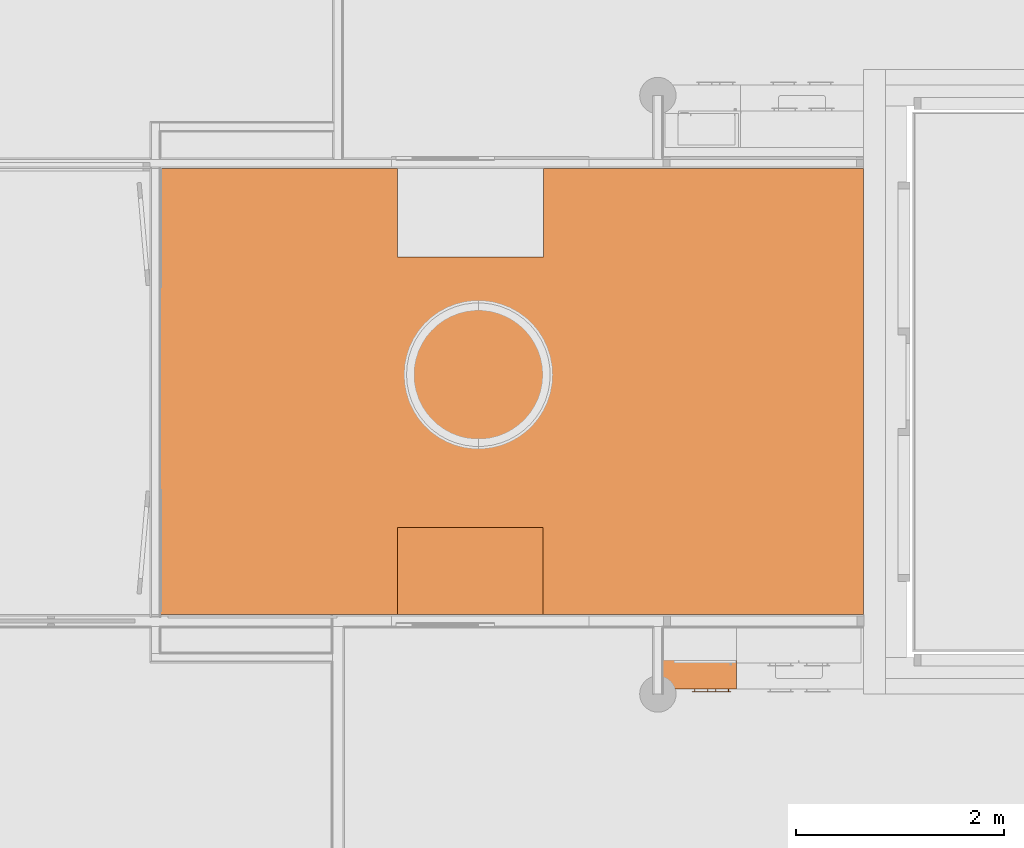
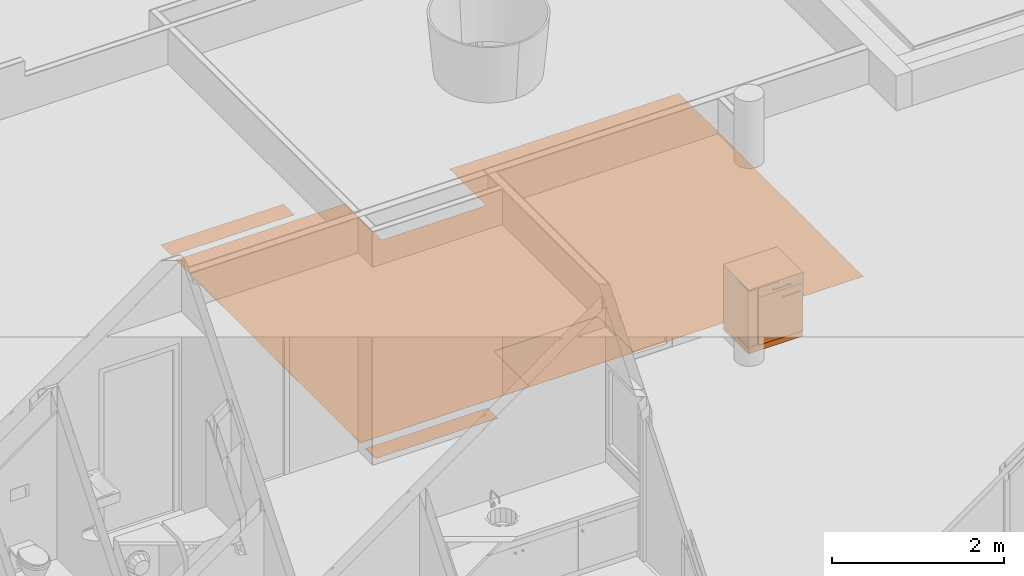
# One storey, part 155 of 167: 3 proxies.
"""IFC2X3 building model written with IfcOpenShell, lengths in millimetres."""

import ifcopenshell
import ifcopenshell.guid

model = None  # the IFC model being written
_history = None  # IfcOwnerHistory: only IFC2X3 demands one
_inside = {}  # id of a spatial element -> (the spatial element, [elements in it])
_under = {}  # id of a project, library or spatial element -> (it, [spatial elements below it])
_declared = {}  # id of a project -> (the project, [libraries it declares])
_typed = {}  # id of a type object -> (the type object, [elements of that type])
_made_of = {}  # id of a material, layer set ... -> (it, [elements and type objects made of it])


def new_model(schema):
    """Start an empty IFC model of exactly this schema.

    Asked for "IFC4X3", IfcOpenShell would pick the latest addendum, in which some entities
    have other attributes; the version numbers below select the first issue.
    IFC2X3 requires an IfcOwnerHistory on every rooted entity: one is made here for all.
    """
    global model, _history
    if schema == "IFC4X3":
        model = ifcopenshell.file(schema_version=(4, 3, 0, 0))
    else:
        model = ifcopenshell.file(schema=schema)
    _inside.clear()
    _under.clear()
    _declared.clear()
    _typed.clear()
    _made_of.clear()
    _history = None
    if model.schema == "IFC2X3":
        org = make("IfcOrganization", Name="unknown")
        user = make(
            "IfcPersonAndOrganization",
            ThePerson=make("IfcPerson", FamilyName="unknown"),
            TheOrganization=org,
        )
        app = make(
            "IfcApplication",
            ApplicationDeveloper=org,
            Version="unknown",
            ApplicationFullName="unknown",
            ApplicationIdentifier="unknown",
        )
        _history = make(
            "IfcOwnerHistory",
            OwningUser=user,
            OwningApplication=app,
            ChangeAction="ADDED",
            CreationDate=0,
        )
    return model


def make(cls, **values):
    """One entity of the class cls with the attributes given. An attribute that is None is left unset."""
    return model.create_entity(
        cls, **{name: value for name, value in values.items() if value is not None}
    )


def entity(cls, *values):
    """Any entity or typed value of the class cls, its attributes in the order of the schema. None: left unset."""
    e = model.create_entity(cls)
    for i, value in enumerate(values):
        if value is not None:
            e[i] = value
    return e


def rooted(cls, **values):
    """An entity with a GlobalId (a new one), such as an element, a storey or a relation."""
    return make(cls, GlobalId=ifcopenshell.guid.new(), OwnerHistory=_history, **values)


def si_unit(unit_type, name, prefix=None):
    """IfcSIUnit, for example si_unit("LENGTHUNIT", "METRE", prefix="MILLI")."""
    return make("IfcSIUnit", UnitType=unit_type, Prefix=prefix, Name=name)


def converted_unit(unit_type, name, factor, base, dimensions=None, offset=None):
    """IfcConversionBasedUnit, such as the inch: factor (a typed value) times the base unit."""
    return make(
        "IfcConversionBasedUnit"
        if offset is None
        else "IfcConversionBasedUnitWithOffset",
        ConversionOffset=offset,
        Dimensions=None
        if dimensions is None
        else entity("IfcDimensionalExponents", *dimensions),
        UnitType=unit_type,
        Name=name,
        ConversionFactor=make(
            "IfcMeasureWithUnit", ValueComponent=factor, UnitComponent=base
        ),
    )


def derived_unit(unit_type, elements):
    """IfcDerivedUnit: a product of units, each with its exponent."""
    return make(
        "IfcDerivedUnit",
        Elements=[
            make("IfcDerivedUnitElement", Unit=unit, Exponent=power)
            for unit, power in elements
        ],
        UnitType=unit_type,
    )


def money_unit(currency):
    """IfcMonetaryUnit."""
    return make("IfcMonetaryUnit", Currency=currency)


def assignment(units):
    """IfcUnitAssignment: the units of a project."""
    return None if units is None else make("IfcUnitAssignment", Units=units)


def point(xyz):
    """IfcCartesianPoint."""
    return None if xyz is None else make("IfcCartesianPoint", Coordinates=xyz)


def direction(xyz):
    """IfcDirection."""
    return None if xyz is None else make("IfcDirection", DirectionRatios=xyz)


def frame(location, z_axis=None, x_axis=None):
    """IfcAxis2Placement3D, a coordinate frame: its origin and axes. An axis left out is left unset."""
    return make(
        "IfcAxis2Placement3D",
        Location=point(location),
        Axis=direction(z_axis),
        RefDirection=direction(x_axis),
    )


def origin_with_axes():
    """The frame at (0, 0, 0) with the z axis (0, 0, 1) and the x axis (1, 0, 0) written out."""
    return frame((0.0, 0.0, 0.0), z_axis=(0.0, 0.0, 1.0), x_axis=(1.0, 0.0, 0.0))


def place(relative_to, where):
    """IfcLocalPlacement: puts the frame where relative to a parent placement (None: the world)."""
    return make(
        "IfcLocalPlacement", PlacementRelTo=relative_to, RelativePlacement=where
    )


def context(
    kind, dimensions, precision=None, world=None, true_north=None, identifier=None
):
    """IfcGeometricRepresentationContext, for example the 3D "Model" context."""
    return make(
        "IfcGeometricRepresentationContext",
        ContextIdentifier=identifier,
        ContextType=kind,
        CoordinateSpaceDimension=dimensions,
        Precision=precision,
        WorldCoordinateSystem=world,
        TrueNorth=true_north,
    )


def subcontext(parent, identifier, kind, view, scale=None):
    """IfcGeometricRepresentationSubContext, for example "Body" below "Model"."""
    return make(
        "IfcGeometricRepresentationSubContext",
        ContextIdentifier=identifier,
        ContextType=kind,
        ParentContext=parent,
        TargetScale=scale,
        TargetView=view,
    )


def project(units=None, contexts=None):
    """IfcProject with its units and contexts."""
    return rooted(
        "IfcProject",
        Name="project",
        RepresentationContexts=contexts,
        UnitsInContext=assignment(units),
    )


def spatial(cls, under=None, at=None, **own):
    """A site, building, storey or space (cls), placed at a placement, below another one or the project."""
    s = rooted(cls, ObjectPlacement=at, **own)
    if under is not None:
        _under.setdefault(under.id(), (under, []))[1].append(s)
    return s


def faces_of(points, faces, orient=None, outer=None):
    """IfcFace entities. A face is a list of loops; a loop is a list of indices into points, from 0.

    orient and outer hold one flag for each loop. By default every Orientation is true, the
    first loop of a face is its IfcFaceOuterBound and the others are IfcFaceBound.
    """
    made = []
    for i, loops in enumerate(faces):
        bounds = []
        for j, loop in enumerate(loops):
            is_outer = j == 0 if outer is None else outer[i][j]
            bounds.append(
                make(
                    "IfcFaceOuterBound" if is_outer else "IfcFaceBound",
                    Bound=make("IfcPolyLoop", Polygon=[points[k] for k in loop]),
                    Orientation=True if orient is None else orient[i][j],
                )
            )
        made.append(make("IfcFace", Bounds=bounds))
    return made


def open_shell(faces, orient=None, outer=None):
    """The faces of one IfcOpenShell. surface_model builds it on its shared points."""
    return ("IfcOpenShell", faces, orient, outer)


def faceted_brep(points, faces, orient=None, outer=None, voids=None):
    """IfcFacetedBrep: a solid bounded by flat faces; with voids (closed shells), ...WithVoids."""
    shared = [point(p) for p in points]
    hull = make("IfcClosedShell", CfsFaces=faces_of(shared, faces, orient, outer))
    if voids is None:
        return make("IfcFacetedBrep", Outer=hull)
    return make(
        "IfcFacetedBrepWithVoids",
        Outer=hull,
        Voids=[
            make(cls, CfsFaces=faces_of(shared, fs, o, b)) for cls, fs, o, b in voids
        ],
    )


def surface_model(cls, points, shells):
    """IfcFaceBasedSurfaceModel or IfcShellBasedSurfaceModel (cls): surfaces that need not close."""
    shared = [point(p) for p in points]
    made = [make(c, CfsFaces=faces_of(shared, fs, o, b)) for c, fs, o, b in shells]
    if cls == "IfcFaceBasedSurfaceModel":
        return make(cls, FbsmFaces=made)
    return make(cls, SbsmBoundary=made)


def shape(context_of_items, identifier, shape_type, items):
    """IfcShapeRepresentation: the items that make up one representation, for example the "Body"."""
    return make(
        "IfcShapeRepresentation",
        ContextOfItems=context_of_items,
        RepresentationIdentifier=identifier,
        RepresentationType=shape_type,
        Items=items,
    )


def material(Name=None, Category=None):
    """IfcMaterial."""
    return make("IfcMaterial", Name=Name, Category=Category)


def made_of(thing, what):
    """Note that an element or type object is made of a material, layer set ...; save() writes the relation."""
    if what is not None:
        _made_of.setdefault(what.id(), (what, []))[1].append(thing)
    return thing


def type_object(cls, material=None, **own):
    """A type object (cls), such as IfcWallType, which elements share."""
    return made_of(rooted(cls, **own), material)


def element(
    cls,
    number,
    at=None,
    inside=None,
    cuts=None,
    type_object=None,
    material=None,
    context=None,
    identifier="Body",
    shape_type=None,
    held_by="IfcProductDefinitionShape",
    body=None,
    shapes=None,
    **own,
):
    """One element of the class cls, such as IfcWall. Its Tag is "e" and its number.

    at: its placement. inside: the storey or other place that contains it. cuts: it is an
    opening in that element (IfcRelVoidsElement). A single representation is given by context,
    identifier, shape_type and body (its items); several are given by shapes. held_by: the class
    of the entity that holds the representations. save() writes the other relations.
    """
    e = rooted(cls, Tag="e%d" % number, ObjectPlacement=at, **own)
    if body is not None:
        shapes = [shape(context, identifier, shape_type, body)]
    if shapes is not None:
        e.Representation = make(held_by, Representations=shapes)
    if inside is not None:
        _inside.setdefault(inside.id(), (inside, []))[1].append(e)
    if cuts is not None:
        rooted(
            "IfcRelVoidsElement", RelatingBuildingElement=cuts, RelatedOpeningElement=e
        )
    if type_object is not None:
        _typed.setdefault(type_object.id(), (type_object, []))[1].append(e)
    return made_of(e, material)


def aggregate(whole, parts):
    """IfcRelAggregates: a whole, such as a stair, and the parts it consists of."""
    return rooted("IfcRelAggregates", RelatingObject=whole, RelatedObjects=parts)


def save(model, path):
    """Write the relations noted so far, then the file.

    IfcRelAggregates (storeys below a building ...), IfcRelContainedInSpatialStructure (elements
    in a storey), IfcRelDefinesByType, IfcRelAssociatesMaterial and IfcRelDeclares: one each for
    every whole, place, type object, material and project.
    """
    for whole, parts in _under.values():
        aggregate(whole, parts)
    for where, things in _inside.values():
        rooted(
            "IfcRelContainedInSpatialStructure",
            RelatedElements=things,
            RelatingStructure=where,
        )
    for kind, things in _typed.values():
        rooted("IfcRelDefinesByType", RelatedObjects=things, RelatingType=kind)
    for what, things in _made_of.values():
        rooted("IfcRelAssociatesMaterial", RelatedObjects=things, RelatingMaterial=what)
    for by, libraries in _declared.values():
        rooted("IfcRelDeclares", RelatingContext=by, RelatedDefinitions=libraries)
    model.write(path)


model = new_model("IFC2X3")

# Units and contexts
model_context = context("Model", 3, precision=0.01, world=origin_with_axes(), true_north=direction((0.0, 1.0)))
plan_context = context("Plan", 3, precision=0.01, world=origin_with_axes(), true_north=direction((0.0, 1.0)))
body_context = subcontext(model_context, "Body", "Model", "MODEL_VIEW")
ifc_project = project(units=[si_unit("LENGTHUNIT", "METRE", prefix="MILLI"), si_unit("AREAUNIT", "SQUARE_METRE"), si_unit("VOLUMEUNIT", "CUBIC_METRE"), converted_unit("PLANEANGLEUNIT", "DEGREE", entity("IfcPlaneAngleMeasure", 0.0174532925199), si_unit("PLANEANGLEUNIT", "RADIAN"), dimensions=[0, 0, 0, 0, 0, 0, 0]), si_unit("SOLIDANGLEUNIT", "STERADIAN"), money_unit("EUR"), converted_unit("TIMEUNIT", "Year", entity("IfcTimeMeasure", 31556926.0), si_unit("TIMEUNIT", "SECOND"), dimensions=[0, 0, 1, 0, 0, 0, 0]), si_unit("MASSUNIT", "GRAM", prefix="KILO"), si_unit("THERMODYNAMICTEMPERATUREUNIT", "DEGREE_CELSIUS"), si_unit("LUMINOUSINTENSITYUNIT", "LUMEN"), si_unit("ENERGYUNIT", "JOULE", prefix="MEGA"), derived_unit("THERMALCONDUCTANCEUNIT", [(si_unit("POWERUNIT", "WATT"), 1), (si_unit("LENGTHUNIT", "METRE"), -1), (si_unit("THERMODYNAMICTEMPERATUREUNIT", "KELVIN"), -1)]), derived_unit("SPECIFICHEATCAPACITYUNIT", [(si_unit("ENERGYUNIT", "JOULE"), 1), (si_unit("MASSUNIT", "GRAM", prefix="KILO"), -1), (si_unit("THERMODYNAMICTEMPERATUREUNIT", "KELVIN"), -1)]), derived_unit("MASSDENSITYUNIT", [(si_unit("MASSUNIT", "GRAM", prefix="KILO"), 1), (si_unit("VOLUMEUNIT", "CUBIC_METRE"), -1)])], contexts=[model_context, plan_context])

# Site, building, storey
site_placement = place(None, origin_with_axes())
site = spatial("IfcSite", under=ifc_project, at=site_placement, Name="Site", CompositionType="ELEMENT")
building_placement = place(site_placement, origin_with_axes())
building = spatial("IfcBuilding", under=site, at=building_placement, Name="Naam gebouw", CompositionType="ELEMENT")
storey_placement = place(building_placement, origin_with_axes())
storey = spatial("IfcBuildingStorey", under=building, at=storey_placement, Name="Begane grond", CompositionType="ELEMENT", Elevation=0.0)

# Proxies
building_element_proxy_type_1 = type_object("IfcBuildingElementProxyType", Name="Kast basis 1D 24", PredefinedType="NOTDEFINED")
proxy_1_placement = place(storey_placement, frame((36029.9999971, 36650.000006, 0.0), z_axis=(0.0, 0.0, 1.0), x_axis=(1.0, 0.0, 0.0)))
element("IfcBuildingElementProxy", 1, at=proxy_1_placement, inside=storey, type_object=building_element_proxy_type_1, Name="__Object-x", context=body_context, shape_type="SurfaceModel", body=[
    faceted_brep([(145.0, 20.0, 760.0), (705.0, 20.0, 760.0), (705.0, 20.0, 780.0), (145.0, 20.0, 780.0), (145.0, 580.0, 760.0), (705.0, 580.0, 760.0), (705.0, 580.0, 780.0), (145.0, 580.0, 780.0)], [[[0, 1, 2, 3]], [[0, 4, 5, 1]], [[1, 5, 6, 2]], [[3, 2, 6, 7]], [[4, 0, 3, 7]], [[5, 4, 7, 6]]]),
    faceted_brep([(0.0, 20.0, 0.0), (725.0, 20.0, 0.0), (725.0, 20.0, 90.0), (0.0, 20.0, 90.0), (0.0, 600.0, 0.0), (725.0, 600.0, 0.0), (725.0, 600.0, 90.0), (0.0, 600.0, 90.0)], [[[0, 1, 2, 3]], [[0, 4, 5, 1]], [[1, 5, 6, 2]], [[3, 2, 6, 7]], [[4, 0, 3, 7]], [[5, 4, 7, 6]]]),
    faceted_brep([(125.0, 20.0, 880.0), (145.0, 20.0, 880.0), (145.0, 20.0, 900.0), (125.0, 20.0, 900.0), (125.0, 600.0, 880.0), (145.0, 600.0, 880.0), (705.0, 600.0, 880.0), (725.0, 600.0, 880.0), (725.0, 20.0, 880.0), (705.0, 20.0, 880.0), (705.0, 20.0, 900.0), (725.0, 20.0, 900.0), (725.0, 600.0, 900.0), (705.0, 600.0, 900.0), (145.0, 600.0, 900.0), (125.0, 600.0, 900.0)], [[[0, 1, 2, 3]], [[0, 4, 5, 6, 7, 8, 9, 1]], [[1, 9, 10, 2]], [[3, 2, 10, 11, 12, 13, 14, 15]], [[4, 0, 3, 15]], [[5, 4, 15, 14]], [[6, 5, 14, 13]], [[7, 6, 13, 12]], [[8, 7, 12, 11]], [[9, 8, 11, 10]]]),
    faceted_brep([(125.0, 20.0, 90.0), (145.0, 20.0, 90.0), (145.0, 20.0, 110.0), (125.0, 20.0, 110.0), (125.0, 600.0, 90.0), (145.0, 600.0, 90.0), (705.0, 600.0, 90.0), (725.0, 600.0, 90.0), (725.0, 20.0, 90.0), (705.0, 20.0, 90.0), (705.0, 20.0, 110.0), (725.0, 20.0, 110.0), (725.0, 600.0, 110.0), (705.0, 600.0, 110.0), (145.0, 600.0, 110.0), (125.0, 600.0, 110.0)], [[[0, 1, 2, 3]], [[0, 4, 5, 6, 7, 8, 9, 1]], [[1, 9, 10, 2]], [[3, 2, 10, 11, 12, 13, 14, 15]], [[4, 0, 3, 15]], [[5, 4, 15, 14]], [[6, 5, 14, 13]], [[7, 6, 13, 12]], [[8, 7, 12, 11]], [[9, 8, 11, 10]]]),
    faceted_brep([(125.0, 20.0, 110.0), (145.0, 20.0, 110.0), (145.0, 20.0, 880.0), (125.0, 20.0, 880.0), (125.0, 600.0, 110.0), (725.0, 600.0, 110.0), (725.0, 20.0, 110.0), (705.0, 20.0, 110.0), (705.0, 580.0, 110.0), (145.0, 580.0, 110.0), (145.0, 580.0, 880.0), (705.0, 580.0, 880.0), (705.0, 20.0, 880.0), (725.0, 20.0, 880.0), (725.0, 600.0, 880.0), (125.0, 600.0, 880.0)], [[[0, 1, 2, 3]], [[0, 4, 5, 6, 7, 8, 9, 1]], [[1, 9, 10, 2]], [[3, 2, 10, 11, 12, 13, 14, 15]], [[4, 0, 3, 15]], [[5, 4, 15, 14]], [[6, 5, 14, 13]], [[7, 6, 13, 12]], [[8, 7, 12, 11]], [[9, 8, 11, 10]]]),
    faceted_brep([(705.0, 20.0, 410.0), (705.0, 580.0, 410.0), (705.0, 580.0, 430.0), (705.0, 20.0, 430.0), (145.0, 20.0, 410.0), (145.0, 580.0, 410.0), (145.0, 580.0, 430.0), (145.0, 20.0, 430.0)], [[[0, 1, 2, 3]], [[0, 4, 5, 1]], [[1, 5, 6, 2]], [[3, 2, 6, 7]], [[4, 0, 3, 7]], [[5, 4, 7, 6]]]),
    faceted_brep([(0.0, 0.0, 900.0), (725.0, 0.0, 900.0), (725.0, 0.0, 920.0), (0.0, 0.0, 920.0), (0.0, 600.0, 900.0), (725.0, 600.0, 900.0), (725.0, 600.0, 920.0), (0.0, 600.0, 920.0)], [[[0, 1, 2, 3]], [[0, 4, 5, 1]], [[1, 5, 6, 2]], [[3, 2, 6, 7]], [[4, 0, 3, 7]], [[5, 4, 7, 6]]]),
    faceted_brep([(126.5, 20.0, 771.5), (723.5, 20.0, 771.5), (723.5, 0.0, 771.5), (126.5, 0.0, 771.5), (126.5, 20.0, 898.5), (723.5, 20.0, 898.5), (723.5, 0.0, 898.5), (126.5, 0.0, 898.5)], [[[0, 1, 2, 3]], [[0, 4, 5, 1]], [[1, 5, 6, 2]], [[3, 2, 6, 7]], [[4, 0, 3, 7]], [[5, 4, 7, 6]]]),
    faceted_brep([(300.0, -28.1480502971, 832.228361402), (300.0, -29.1213203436, 832.878679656), (300.0, -29.7716385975, 833.851949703), (300.0, -30.0, 835.0), (300.0, -29.7716385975, 836.148050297), (300.0, -29.1213203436, 837.121320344), (300.0, -28.1480502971, 837.771638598), (300.0, -27.0, 838.0), (300.0, -25.8519497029, 837.771638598), (300.0, -24.8786796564, 837.121320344), (300.0, -24.2283614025, 836.148050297), (300.0, -24.0, 835.0), (300.0, -24.2283614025, 833.851949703), (300.0, -24.8786796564, 832.878679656), (300.0, -25.8519497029, 832.228361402), (300.0, -27.0, 832.0), (550.0, -28.1480502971, 832.228361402), (550.0, -29.1213203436, 832.878679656), (550.0, -29.7716385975, 833.851949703), (550.0, -30.0, 835.0), (550.0, -29.7716385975, 836.148050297), (550.0, -29.1213203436, 837.121320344), (550.0, -28.1480502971, 837.771638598), (550.0, -27.0, 838.0), (550.0, -25.8519497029, 837.771638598), (550.0, -24.8786796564, 837.121320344), (550.0, -24.2283614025, 836.148050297), (550.0, -24.0, 835.0), (550.0, -24.2283614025, 833.851949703), (550.0, -24.8786796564, 832.878679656), (550.0, -25.8519497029, 832.228361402), (550.0, -27.0, 832.0)], [[[0, 1, 2, 3, 4, 5, 6, 7, 8, 9, 10, 11, 12, 13, 14, 15]], [[1, 0, 16, 17]], [[2, 1, 17, 18]], [[3, 2, 18, 19]], [[4, 3, 19, 20]], [[5, 4, 20, 21]], [[6, 5, 21, 22]], [[7, 6, 22, 23]], [[8, 7, 23, 24]], [[9, 8, 24, 25]], [[10, 9, 25, 26]], [[11, 10, 26, 27]], [[12, 11, 27, 28]], [[13, 12, 28, 29]], [[14, 13, 29, 30]], [[15, 14, 30, 31]], [[0, 15, 31, 16]], [[16, 31, 30, 29, 28, 27, 26, 25, 24, 23, 22, 21, 20, 19, 18, 17]]]),
    surface_model("IfcShellBasedSurfaceModel", [(322.690301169, -24.156637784, 834.043291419), (322.5, -24.0, 835.0), (322.5, 0.0, 835.0), (322.690301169, 0.0, 834.043291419), (322.690301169, -24.156637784, 835.956708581), (322.690301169, 0.0, 835.956708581), (323.232233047, 0.0, 836.767766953), (324.043291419, 0.0, 837.309698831), (325.0, 0.0, 837.5), (325.956708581, 0.0, 837.309698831), (326.767766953, 0.0, 836.767766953), (327.309698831, 0.0, 835.956708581), (327.5, 0.0, 835.0), (327.309698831, 0.0, 834.043291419), (326.767766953, 0.0, 833.232233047), (325.956708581, 0.0, 832.690301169), (325.0, 0.0, 832.5), (324.043291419, 0.0, 832.690301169), (323.232233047, 0.0, 833.232233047), (323.232233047, -24.5761600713, 833.232233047), (323.232233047, -24.5761600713, 836.767766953), (324.043291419, -25.0855049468, 837.309698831), (325.0, -25.3416876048, 837.5), (325.956708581, -25.0855049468, 837.309698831), (326.767766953, -24.5761600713, 836.767766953), (327.309698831, -24.156637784, 835.956708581), (327.5, -24.0, 835.0), (327.309698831, -24.156637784, 834.043291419), (326.767766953, -24.5761600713, 833.232233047), (325.956708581, -25.0855049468, 832.690301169), (325.0, -25.3416876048, 832.5), (324.043291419, -25.0855049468, 832.690301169)], [open_shell([[[0, 1, 2, 3]], [[1, 4, 5, 2]], [[3, 2, 5, 6, 7, 8, 9, 10, 11, 12, 13, 14, 15, 16, 17, 18]], [[19, 0, 3, 18]], [[4, 20, 6, 5]], [[20, 21, 7, 6]], [[21, 22, 8, 7]], [[22, 23, 9, 8]], [[23, 24, 10, 9]], [[24, 25, 11, 10]], [[25, 26, 12, 11]], [[26, 27, 13, 12]], [[27, 28, 14, 13]], [[28, 29, 15, 14]], [[29, 30, 16, 15]], [[30, 31, 17, 16]], [[31, 19, 18, 17]]])]),
    surface_model("IfcShellBasedSurfaceModel", [(522.690301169, -24.156637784, 834.043291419), (522.5, -24.0, 835.0), (522.5, 0.0, 835.0), (522.690301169, 0.0, 834.043291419), (522.690301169, -24.156637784, 835.956708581), (522.690301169, 0.0, 835.956708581), (523.232233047, 0.0, 836.767766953), (524.043291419, 0.0, 837.309698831), (525.0, 0.0, 837.5), (525.956708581, 0.0, 837.309698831), (526.767766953, 0.0, 836.767766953), (527.309698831, 0.0, 835.956708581), (527.5, 0.0, 835.0), (527.309698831, 0.0, 834.043291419), (526.767766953, 0.0, 833.232233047), (525.956708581, 0.0, 832.690301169), (525.0, 0.0, 832.5), (524.043291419, 0.0, 832.690301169), (523.232233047, 0.0, 833.232233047), (523.232233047, -24.5761600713, 833.232233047), (523.232233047, -24.5761600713, 836.767766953), (524.043291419, -25.0855049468, 837.309698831), (525.0, -25.3416876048, 837.5), (525.956708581, -25.0855049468, 837.309698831), (526.767766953, -24.5761600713, 836.767766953), (527.309698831, -24.156637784, 835.956708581), (527.5, -24.0, 835.0), (527.309698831, -24.156637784, 834.043291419), (526.767766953, -24.5761600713, 833.232233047), (525.956708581, -25.0855049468, 832.690301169), (525.0, -25.3416876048, 832.5), (524.043291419, -25.0855049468, 832.690301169)], [open_shell([[[0, 1, 2, 3]], [[1, 4, 5, 2]], [[3, 2, 5, 6, 7, 8, 9, 10, 11, 12, 13, 14, 15, 16, 17, 18]], [[19, 0, 3, 18]], [[4, 20, 6, 5]], [[20, 21, 7, 6]], [[21, 22, 8, 7]], [[22, 23, 9, 8]], [[23, 24, 10, 9]], [[24, 25, 11, 10]], [[25, 26, 12, 11]], [[26, 27, 13, 12]], [[27, 28, 14, 13]], [[28, 29, 15, 14]], [[29, 30, 16, 15]], [[30, 31, 17, 16]], [[31, 19, 18, 17]]])]),
    faceted_brep([(126.5, 20.0, 91.5), (723.5, 20.0, 91.5), (723.5, 0.0, 91.5), (126.5, 0.0, 91.5), (126.5, 20.0, 768.5), (723.5, 20.0, 768.5), (723.5, 0.0, 768.5), (126.5, 0.0, 768.5)], [[[0, 1, 2, 3]], [[0, 4, 5, 1]], [[1, 5, 6, 2]], [[3, 2, 6, 7]], [[4, 0, 3, 7]], [[5, 4, 7, 6]]]),
    faceted_brep([(423.5, -28.1480502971, 685.728361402), (423.5, -29.1213203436, 686.378679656), (423.5, -29.7716385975, 687.351949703), (423.5, -30.0, 688.5), (423.5, -29.7716385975, 689.648050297), (423.5, -29.1213203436, 690.621320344), (423.5, -28.1480502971, 691.271638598), (423.5, -27.0, 691.5), (423.5, -25.8519497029, 691.271638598), (423.5, -24.8786796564, 690.621320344), (423.5, -24.2283614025, 689.648050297), (423.5, -24.0, 688.5), (423.5, -24.2283614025, 687.351949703), (423.5, -24.8786796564, 686.378679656), (423.5, -25.8519497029, 685.728361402), (423.5, -27.0, 685.5), (673.5, -28.1480502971, 685.728361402), (673.5, -29.1213203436, 686.378679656), (673.5, -29.7716385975, 687.351949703), (673.5, -30.0, 688.5), (673.5, -29.7716385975, 689.648050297), (673.5, -29.1213203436, 690.621320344), (673.5, -28.1480502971, 691.271638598), (673.5, -27.0, 691.5), (673.5, -25.8519497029, 691.271638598), (673.5, -24.8786796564, 690.621320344), (673.5, -24.2283614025, 689.648050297), (673.5, -24.0, 688.5), (673.5, -24.2283614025, 687.351949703), (673.5, -24.8786796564, 686.378679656), (673.5, -25.8519497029, 685.728361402), (673.5, -27.0, 685.5)], [[[0, 1, 2, 3, 4, 5, 6, 7, 8, 9, 10, 11, 12, 13, 14, 15]], [[1, 0, 16, 17]], [[2, 1, 17, 18]], [[3, 2, 18, 19]], [[4, 3, 19, 20]], [[5, 4, 20, 21]], [[6, 5, 21, 22]], [[7, 6, 22, 23]], [[8, 7, 23, 24]], [[9, 8, 24, 25]], [[10, 9, 25, 26]], [[11, 10, 26, 27]], [[12, 11, 27, 28]], [[13, 12, 28, 29]], [[14, 13, 29, 30]], [[15, 14, 30, 31]], [[0, 15, 31, 16]], [[16, 31, 30, 29, 28, 27, 26, 25, 24, 23, 22, 21, 20, 19, 18, 17]]]),
    surface_model("IfcShellBasedSurfaceModel", [(446.190301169, -24.156637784, 687.543291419), (446.0, -24.0, 688.5), (446.0, 0.0, 688.5), (446.190301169, 0.0, 687.543291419), (446.190301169, -24.156637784, 689.456708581), (446.190301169, 0.0, 689.456708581), (446.732233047, 0.0, 690.267766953), (447.543291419, 0.0, 690.809698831), (448.5, 0.0, 691.0), (449.456708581, 0.0, 690.809698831), (450.267766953, 0.0, 690.267766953), (450.809698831, 0.0, 689.456708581), (451.0, 0.0, 688.5), (450.809698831, 0.0, 687.543291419), (450.267766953, 0.0, 686.732233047), (449.456708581, 0.0, 686.190301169), (448.5, 0.0, 686.0), (447.543291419, 0.0, 686.190301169), (446.732233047, 0.0, 686.732233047), (446.732233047, -24.5761600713, 686.732233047), (446.732233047, -24.5761600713, 690.267766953), (447.543291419, -25.0855049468, 690.809698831), (448.5, -25.3416876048, 691.0), (449.456708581, -25.0855049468, 690.809698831), (450.267766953, -24.5761600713, 690.267766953), (450.809698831, -24.156637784, 689.456708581), (451.0, -24.0, 688.5), (450.809698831, -24.156637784, 687.543291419), (450.267766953, -24.5761600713, 686.732233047), (449.456708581, -25.0855049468, 686.190301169), (448.5, -25.3416876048, 686.0), (447.543291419, -25.0855049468, 686.190301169)], [open_shell([[[0, 1, 2, 3]], [[1, 4, 5, 2]], [[3, 2, 5, 6, 7, 8, 9, 10, 11, 12, 13, 14, 15, 16, 17, 18]], [[19, 0, 3, 18]], [[4, 20, 6, 5]], [[20, 21, 7, 6]], [[21, 22, 8, 7]], [[22, 23, 9, 8]], [[23, 24, 10, 9]], [[24, 25, 11, 10]], [[25, 26, 12, 11]], [[26, 27, 13, 12]], [[27, 28, 14, 13]], [[28, 29, 15, 14]], [[29, 30, 16, 15]], [[30, 31, 17, 16]], [[31, 19, 18, 17]]])]),
    surface_model("IfcShellBasedSurfaceModel", [(646.190301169, -24.156637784, 687.543291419), (646.0, -24.0, 688.5), (646.0, 0.0, 688.5), (646.190301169, 0.0, 687.543291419), (646.190301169, -24.156637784, 689.456708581), (646.190301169, 0.0, 689.456708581), (646.732233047, 0.0, 690.267766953), (647.543291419, 0.0, 690.809698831), (648.5, 0.0, 691.0), (649.456708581, 0.0, 690.809698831), (650.267766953, 0.0, 690.267766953), (650.809698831, 0.0, 689.456708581), (651.0, 0.0, 688.5), (650.809698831, 0.0, 687.543291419), (650.267766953, 0.0, 686.732233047), (649.456708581, 0.0, 686.190301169), (648.5, 0.0, 686.0), (647.543291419, 0.0, 686.190301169), (646.732233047, 0.0, 686.732233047), (646.732233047, -24.5761600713, 686.732233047), (646.732233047, -24.5761600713, 690.267766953), (647.543291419, -25.0855049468, 690.809698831), (648.5, -25.3416876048, 691.0), (649.456708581, -25.0855049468, 690.809698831), (650.267766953, -24.5761600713, 690.267766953), (650.809698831, -24.156637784, 689.456708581), (651.0, -24.0, 688.5), (650.809698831, -24.156637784, 687.543291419), (650.267766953, -24.5761600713, 686.732233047), (649.456708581, -25.0855049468, 686.190301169), (648.5, -25.3416876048, 686.0), (647.543291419, -25.0855049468, 686.190301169)], [open_shell([[[0, 1, 2, 3]], [[1, 4, 5, 2]], [[3, 2, 5, 6, 7, 8, 9, 10, 11, 12, 13, 14, 15, 16, 17, 18]], [[19, 0, 3, 18]], [[4, 20, 6, 5]], [[20, 21, 7, 6]], [[21, 22, 8, 7]], [[22, 23, 9, 8]], [[23, 24, 10, 9]], [[24, 25, 11, 10]], [[25, 26, 12, 11]], [[26, 27, 13, 12]], [[27, 28, 14, 13]], [[28, 29, 15, 14]], [[29, 30, 16, 15]], [[30, 31, 17, 16]], [[31, 19, 18, 17]]])]),
    faceted_brep([(125.0, 598.5, 91.5), (125.0, 21.5, 91.5), (0.0, 21.5, 91.5), (0.0, 598.5, 91.5), (125.0, 598.5, 898.5), (125.0, 21.5, 898.5), (0.0, 21.5, 898.5), (0.0, 598.5, 898.5)], [[[0, 1, 2, 3]], [[0, 4, 5, 1]], [[1, 5, 6, 2]], [[3, 2, 6, 7]], [[4, 0, 3, 7]], [[5, 4, 7, 6]]]),
])
ifc_material_1 = material(Name="_TenW_43_A2 Forbo Impressa")
building_element_proxy_type_2 = type_object("IfcBuildingElementProxyType", Name="_TenW_43_A2 Forbo Impressa 2", PredefinedType="NOTDEFINED")
proxy_2_placement = place(storey_placement, frame((33497.0001254, 37350.0, 0.0), z_axis=(0.0, 0.0, 1.0), x_axis=(1.0, 0.0, 0.0)))
element("IfcBuildingElementProxy", 2, at=proxy_2_placement, inside=storey, type_object=building_element_proxy_type_2, material=ifc_material_1, Name="23__Vloer-x", context=body_context, shape_type="Brep", body=[
    faceted_brep([(0.0, 849.999997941, 2.0), (0.0, 12.5, 2.0), (1399.51233137, 12.5, 2.0), (1399.51233137, 849.999997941, 2.0), (0.0, 849.999997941, 0.0), (0.0, 12.5, 0.0), (1399.51233137, 12.5, 0.0), (1399.51233137, 849.999997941, 0.0)], [[[0, 1, 2, 3]], [[4, 5, 1, 0]], [[5, 6, 2, 1]], [[3, 2, 6, 7]], [[0, 3, 7, 4]], [[7, 6, 5, 4]]]),
])
ifc_material_2 = material(Name="_TenW_43_Marmoleum Salsa Verde")
building_element_proxy_type_3 = type_object("IfcBuildingElementProxyType", Name="_TenW_43_Marmoleum Salsa Verde 2", PredefinedType="NOTDEFINED")
proxy_3_placement = place(storey_placement, frame((37975.0, 37362.5, 0.0), z_axis=(0.0, 0.0, 1.0), x_axis=(1.0, 0.0, 0.0)))
element("IfcBuildingElementProxy", 3, at=proxy_3_placement, inside=storey, type_object=building_element_proxy_type_3, material=ifc_material_2, Name="23__Vloer-x", context=body_context, shape_type="Brep", body=[
    faceted_brep([(-5112.21853355, -362.5, 0.0), (-5112.21853355, -125.0, 0.0), (-5112.21853355, -125.0, 2.0), (-5112.21853355, -362.5, 2.0), (-6753.20311513, -362.5, 0.0), (-6753.20311513, -125.0, 0.0), (-6753.20311513, -125.0, 2.0), (-6753.20311513, -362.5, 2.0)], [[[0, 1, 2, 3]], [[4, 5, 1, 0]], [[5, 6, 2, 1]], [[3, 2, 6, 7]], [[3, 7, 4, 0]], [[7, 6, 5, 4]]]),
    faceted_brep([(-6753.20311513, 4637.5, 2.0), (-6753.20311513, 4387.5, 2.0), (-5099.71852925, 4387.5, 2.0), (-5099.71853355, 4637.5, 2.0), (-6753.20311513, 4637.5, 0.0), (-6753.20311513, 4387.5, 0.0), (-5099.71852925, 4387.5, 0.0), (-5099.71853355, 4637.5, 0.0)], [[[0, 1, 2, 3]], [[4, 5, 1, 0]], [[5, 6, 2, 1]], [[3, 2, 6, 7]], [[0, 3, 7, 4]], [[7, 6, 5, 4]]]),
    faceted_brep([(0.0, 0.0, 2.0), (0.0, 317.443939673, 2.0), (0.0, 4157.29393967, 2.0), (0.0, 4287.5, 2.0), (-3076.2076455, 4287.49999842, 2.0), (-3076.2076455, 3437.5, 2.0), (-4477.99987462, 3437.5, 2.0), (-4477.99987462, 4287.49999842, 2.0), (-5099.71852753, 4287.5, 2.0), (-6753.20311513, 4287.5, 2.0), (-6753.20311513, 0.0, 2.0), (-4477.99987462, 0.0, 2.0), (-4477.99987462, 837.499997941, 2.0), (-3078.48754325, 837.499997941, 2.0), (-3078.48754325, 0.0, 2.0), (0.0, 0.0, 0.0), (0.0, 317.443939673, 0.0), (0.0, 4157.29393967, 0.0), (0.0, 4287.5, 0.0), (-3076.2076455, 4287.49999842, 0.0), (-3076.2076455, 3437.5, 0.0), (-4477.99987462, 3437.5, 0.0), (-4477.99987462, 4287.49999842, 0.0), (-5099.71852753, 4287.5, 0.0), (-6753.20311513, 4287.5, 0.0), (-6753.20311513, 0.0, 0.0), (-4477.99987462, 0.0, 0.0), (-4477.99987462, 837.499997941, 0.0), (-3078.48754325, 837.499997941, 0.0), (-3078.48754325, 0.0, 0.0)], [[[0, 1, 2, 3, 4, 5, 6, 7, 8, 9, 10, 11, 12, 13, 14]], [[15, 16, 1, 0]], [[16, 17, 2, 1]], [[3, 2, 17, 18]], [[4, 3, 18, 19]], [[5, 4, 19, 20]], [[6, 5, 20, 21]], [[7, 6, 21, 22]], [[22, 23, 8, 7]], [[24, 9, 8, 23]], [[24, 25, 10, 9]], [[26, 11, 10, 25]], [[12, 11, 26, 27]], [[13, 12, 27, 28]], [[28, 29, 14, 13]], [[15, 0, 14, 29]], [[18, 17, 16, 15, 29, 28, 27, 26, 25, 24, 23, 22, 21, 20, 19]]]),
])

save(model, "model.ifc")
